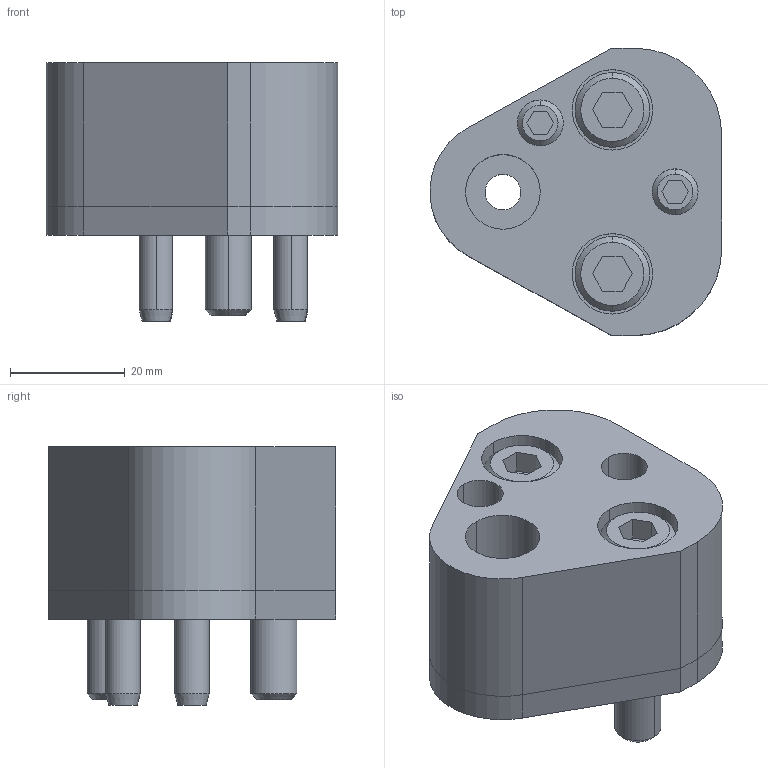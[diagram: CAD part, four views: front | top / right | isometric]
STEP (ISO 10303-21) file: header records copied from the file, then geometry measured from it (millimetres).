
FILE_DESCRIPTION(/* description */ (''),/* implementation_level */ '2;1');
FILE_NAME(/* name */ '3d_25crn-ap13_03128_r00.stp',/* time_stamp */ '2011-01-10T14:17:54+09:00',/* author */ ('MISUMI'),/* organization */ (''),/* preprocessor_version */ 'ST-DEVELOPER v11',/* originating_system */ 'UGS - NX 5.0',/* authorisation */ '');
FILE_SCHEMA (('CONFIG_CONTROL_DESIGN'));
Length unit declared in the file: millimetre
Products named in the file (1): 3d_25crn-ap13_03128_r00
Bounding box: 50.76 x 50 x 45 mm (x, y, z)
Volume: 51596.8 mm3; surface area: 20741 mm2
Topology: 8 solids, 8 shells, 155 faces, 348 edges, 224 vertices
Faces by surface type: plane 67, cylinder 62, cone 26
Entity records: 4494 total; most frequent: DIRECTION 804, CARTESIAN_POINT 782, ORIENTED_EDGE 696, EDGE_CURVE 348, AXIS2_PLACEMENT_3D 306, VERTEX_POINT 224, LINE 192, VECTOR 192
